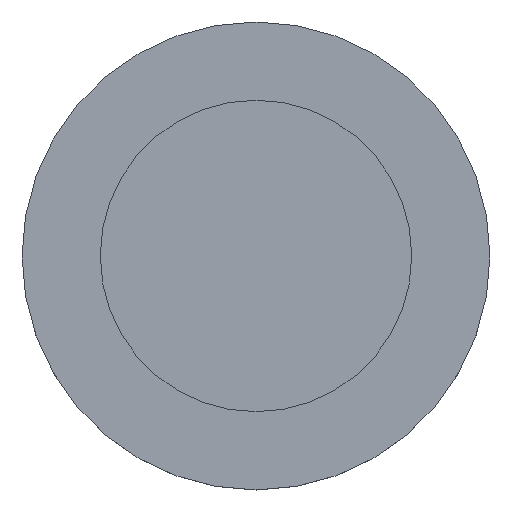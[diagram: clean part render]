
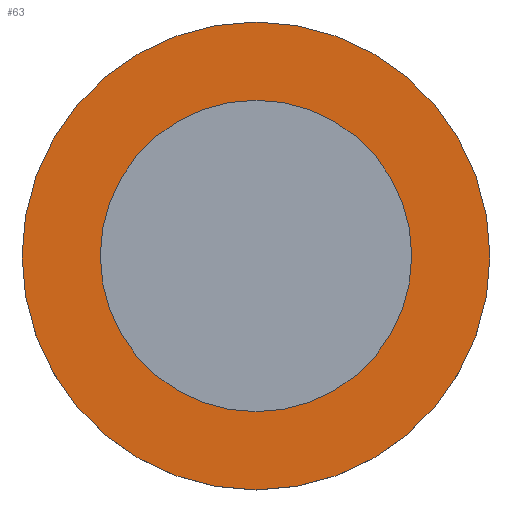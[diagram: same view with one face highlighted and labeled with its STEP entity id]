
A CAD part, top view. The second image highlights one B-rep face of the part: STEP entity #63.
In plain terms, the highlighted planar face has unit normal (0, 0, 1).
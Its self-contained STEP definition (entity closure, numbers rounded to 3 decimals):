
#63 = ADVANCED_FACE( '', ( #115, #116 ), #117, .F. );
#115 = FACE_OUTER_BOUND( '', #165, .T. );
#116 = FACE_BOUND( '', #166, .T. );
#117 = PLANE( '', #167 );
#165 = EDGE_LOOP( '', ( #218 ) );
#166 = EDGE_LOOP( '', ( #219 ) );
#167 = AXIS2_PLACEMENT_3D( '', #220, #221, #222 );
#218 = ORIENTED_EDGE( '', *, *, #248, .F. );
#219 = ORIENTED_EDGE( '', *, *, #237, .T. );
#220 = CARTESIAN_POINT( '', ( 0., 0., 25.4 ) );
#221 = DIRECTION( '', ( 0., 0., -1. ) );
#222 = DIRECTION( '', ( -1., 0., 0. ) );
#237 = EDGE_CURVE( '', #255, #255, #256, .T. );
#248 = EDGE_CURVE( '', #271, #271, #272, .T. );
#255 = VERTEX_POINT( '', #280 );
#256 = CIRCLE( '', #281, 85. );
#271 = VERTEX_POINT( '', #296 );
#272 = CIRCLE( '', #297, 127.7 );
#280 = CARTESIAN_POINT( '', ( 85., 0., 25.4 ) );
#281 = AXIS2_PLACEMENT_3D( '', #305, #306, #307 );
#296 = CARTESIAN_POINT( '', ( 127.7, 0., 25.4 ) );
#297 = AXIS2_PLACEMENT_3D( '', #320, #321, #322 );
#305 = CARTESIAN_POINT( '', ( 0., 0., 25.4 ) );
#306 = DIRECTION( '', ( 0., 0., -1. ) );
#307 = DIRECTION( '', ( 1., 0., 0. ) );
#320 = CARTESIAN_POINT( '', ( 0., 0., 25.4 ) );
#321 = DIRECTION( '', ( 0., 0., -1. ) );
#322 = DIRECTION( '', ( 1., 0., 0. ) );
